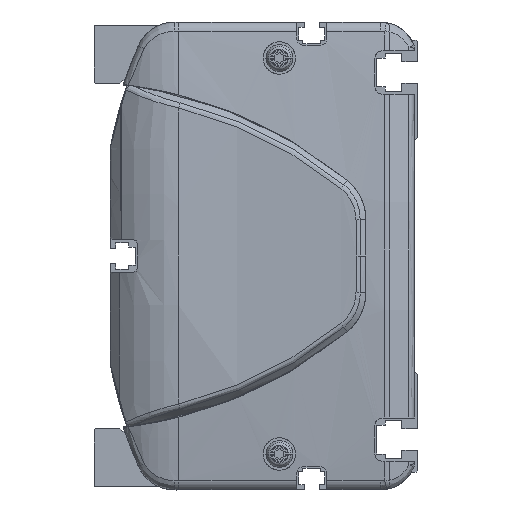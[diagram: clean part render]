
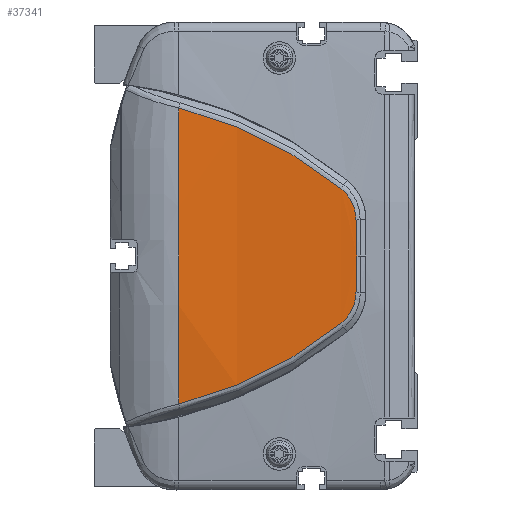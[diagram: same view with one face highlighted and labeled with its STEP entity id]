
A CAD part, left-side view. The second image highlights one B-rep face of the part: STEP entity #37341.
In plain terms, the highlighted cylindrical face has radius 500 mm (diameter 1000 mm), a partial arc.
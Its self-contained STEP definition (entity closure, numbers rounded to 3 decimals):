
#33577=CARTESIAN_POINT('',(486.,66.362,0.));
#33578=DIRECTION('',(0.,-1.,0.));
#33579=DIRECTION('',(-0.997,0.,0.082));
#33580=AXIS2_PLACEMENT_3D('',#33577,#33578,#33579);
#34460=CARTESIAN_POINT('',(-13.648,21.313,
-18.759));
#34461=CARTESIAN_POINT('',(-13.449,27.904,
-24.058));
#34462=CARTESIAN_POINT('',(-12.934,42.195,
-33.27));
#34463=CARTESIAN_POINT('',(-12.471,58.156,
-39.127));
#34464=CARTESIAN_POINT('',(-12.306,66.362,
-41.121));
#34466=CARTESIAN_POINT('',(-12.306,66.362,
41.121));
#34467=CARTESIAN_POINT('',(-12.471,58.156,
39.127));
#34468=CARTESIAN_POINT('',(-12.934,42.195,
33.27));
#34469=CARTESIAN_POINT('',(-13.449,27.904,
24.058));
#34470=CARTESIAN_POINT('',(-13.648,21.313,
18.759));
#34472=CARTESIAN_POINT('',(-13.648,21.313,
18.759));
#34473=CARTESIAN_POINT('',(-13.686,20.035,
17.736));
#34474=CARTESIAN_POINT('',(-13.779,17.936,
15.107));
#34475=CARTESIAN_POINT('',(-13.863,17.152,
11.827));
#34476=CARTESIAN_POINT('',(-13.896,17.124,
10.178));
#34478=CARTESIAN_POINT('',(-13.896,17.124,
10.178));
#34479=CARTESIAN_POINT('',(-13.92,17.107,
9.025));
#34480=CARTESIAN_POINT('',(-13.959,17.067,
6.733));
#34481=CARTESIAN_POINT('',(-13.993,16.98,
3.339));
#34482=CARTESIAN_POINT('',(-14.,16.898,
1.108));
#34483=CARTESIAN_POINT('',(-14.,16.849,
0.));
#34485=CARTESIAN_POINT('',(-14.,16.849,
0.));
#34486=CARTESIAN_POINT('',(-14.,16.898,
-1.108));
#34487=CARTESIAN_POINT('',(-13.993,16.98,
-3.339));
#34488=CARTESIAN_POINT('',(-13.959,17.067,
-6.732));
#34489=CARTESIAN_POINT('',(-13.92,17.107,
-9.027));
#34490=CARTESIAN_POINT('',(-13.896,17.124,
-10.18));
#34492=CARTESIAN_POINT('',(-13.896,17.124,
-10.18));
#34493=CARTESIAN_POINT('',(-13.863,17.152,
-11.828));
#34494=CARTESIAN_POINT('',(-13.779,17.937,
-15.109));
#34495=CARTESIAN_POINT('',(-13.686,20.035,
-17.736));
#34496=CARTESIAN_POINT('',(-13.648,21.313,
-18.759));
#35163=VERTEX_POINT('',#34460);
#35164=VERTEX_POINT('',#34464);
#35165=CARTESIAN_POINT('',(-12.306,66.362,
41.121));
#35166=VERTEX_POINT('',#35165);
#35167=VERTEX_POINT('',#34470);
#35168=VERTEX_POINT('',#34476);
#35169=VERTEX_POINT('',#34483);
#35170=VERTEX_POINT('',#34490);
#37322=CARTESIAN_POINT('',(486.,8.006,0.));
#37323=DIRECTION('',(0.,1.,0.));
#37324=DIRECTION('',(1.,0.,0.));
#37325=AXIS2_PLACEMENT_3D('',#37322,#37323,#37324);
#37326=CYLINDRICAL_SURFACE('',#37325,500.);
#37328=ORIENTED_EDGE('',*,*,#37327,.T.);
#37329=ORIENTED_EDGE('',*,*,#35965,.F.);
#37331=ORIENTED_EDGE('',*,*,#37330,.T.);
#37333=ORIENTED_EDGE('',*,*,#37332,.T.);
#37335=ORIENTED_EDGE('',*,*,#37334,.T.);
#37337=ORIENTED_EDGE('',*,*,#37336,.T.);
#37338=ORIENTED_EDGE('',*,*,#37312,.T.);
#37339=EDGE_LOOP('',(#37328,#37329,#37331,#37333,#37335,#37337,#37338));
#37340=FACE_OUTER_BOUND('',#37339,.F.);
#37341=ADVANCED_FACE('',(#37340),#37326,.T.);
#33581=CIRCLE('',#33580,500.);
#34465=B_SPLINE_CURVE_WITH_KNOTS('',3,(#34460,#34461,#34462,#34463,#34464),
.UNSPECIFIED.,.F.,.F.,(4,1,4),(0.,0.5,1.),.UNSPECIFIED.);
#34471=B_SPLINE_CURVE_WITH_KNOTS('',3,(#34466,#34467,#34468,#34469,#34470),
.UNSPECIFIED.,.F.,.F.,(4,1,4),(0.,0.5,1.),.UNSPECIFIED.);
#34477=B_SPLINE_CURVE_WITH_KNOTS('',3,(#34472,#34473,#34474,#34475,#34476),
.UNSPECIFIED.,.F.,.F.,(4,1,4),(0.,0.5,1.),.UNSPECIFIED.);
#34484=B_SPLINE_CURVE_WITH_KNOTS('',3,(#34478,#34479,#34480,#34481,#34482,
#34483),.UNSPECIFIED.,.F.,.F.,(4,1,1,4),(0.,0.333,
0.667,1.),.UNSPECIFIED.);
#34491=B_SPLINE_CURVE_WITH_KNOTS('',3,(#34485,#34486,#34487,#34488,#34489,
#34490),.UNSPECIFIED.,.F.,.F.,(4,1,1,4),(0.,0.333,
0.667,1.),.UNSPECIFIED.);
#34497=B_SPLINE_CURVE_WITH_KNOTS('',3,(#34492,#34493,#34494,#34495,#34496),
.UNSPECIFIED.,.F.,.F.,(4,1,4),(0.,0.5,1.),.UNSPECIFIED.);
#35965=EDGE_CURVE('',#35166,#35164,#33581,.T.);
#37312=EDGE_CURVE('',#35170,#35163,#34497,.T.);
#37327=EDGE_CURVE('',#35163,#35164,#34465,.T.);
#37330=EDGE_CURVE('',#35166,#35167,#34471,.T.);
#37332=EDGE_CURVE('',#35167,#35168,#34477,.T.);
#37334=EDGE_CURVE('',#35168,#35169,#34484,.T.);
#37336=EDGE_CURVE('',#35169,#35170,#34491,.T.);
